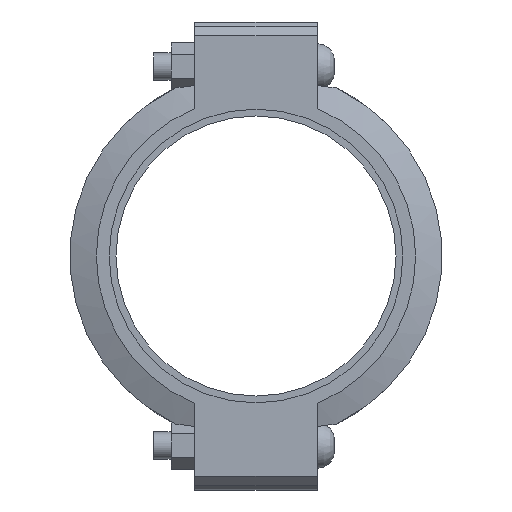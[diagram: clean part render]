
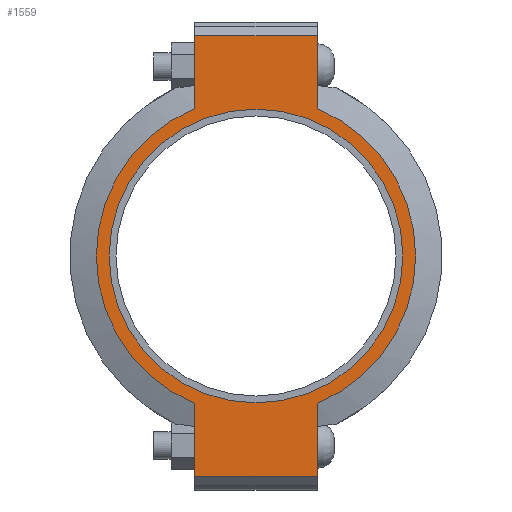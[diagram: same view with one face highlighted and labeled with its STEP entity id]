
A CAD part, left-side view. The second image highlights one B-rep face of the part: STEP entity #1559.
In plain terms, the highlighted planar face has unit normal (-1, 0, 0) as drawn and (0, 0, 1) by its records, which use the part's own axes.
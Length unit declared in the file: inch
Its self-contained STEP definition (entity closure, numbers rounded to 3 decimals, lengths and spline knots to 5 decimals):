
#186=LINE('',#2659,#273);
#197=LINE('',#2710,#284);
#203=LINE('',#2736,#290);
#205=LINE('',#2739,#292);
#206=LINE('',#2744,#293);
#207=LINE('',#2745,#294);
#273=VECTOR('',#2145,0.3937);
#284=VECTOR('',#2176,0.3937);
#290=VECTOR('',#2194,0.3937);
#292=VECTOR('',#2198,0.3937);
#293=VECTOR('',#2203,0.3937);
#294=VECTOR('',#2204,0.3937);
#352=FACE_BOUND('',#511,.T.);
#412=FACE_OUTER_BOUND('',#510,.T.);
#510=EDGE_LOOP('',(#1248,#1249,#1250,#1251,#1252,#1253,#1254,#1255));
#511=EDGE_LOOP('',(#1256));
#616=CIRCLE('',#1804,5.845);
#617=CIRCLE('',#1805,5.845);
#618=CIRCLE('',#1806,5.375);
#725=VERTEX_POINT('',#2656);
#726=VERTEX_POINT('',#2658);
#743=VERTEX_POINT('',#2705);
#744=VERTEX_POINT('',#2709);
#751=VERTEX_POINT('',#2731);
#752=VERTEX_POINT('',#2735);
#753=VERTEX_POINT('',#2741);
#754=VERTEX_POINT('',#2743);
#755=VERTEX_POINT('',#2747);
#895=EDGE_CURVE('',#726,#725,#186,.T.);
#916=EDGE_CURVE('',#744,#743,#197,.T.);
#927=EDGE_CURVE('',#752,#751,#203,.T.);
#929=EDGE_CURVE('',#752,#725,#205,.T.);
#930=EDGE_CURVE('',#751,#753,#616,.T.);
#931=EDGE_CURVE('',#753,#754,#206,.T.);
#932=EDGE_CURVE('',#744,#754,#207,.T.);
#933=EDGE_CURVE('',#743,#726,#617,.T.);
#934=EDGE_CURVE('',#755,#755,#618,.T.);
#1248=ORIENTED_EDGE('',*,*,#929,.F.);
#1249=ORIENTED_EDGE('',*,*,#927,.T.);
#1250=ORIENTED_EDGE('',*,*,#930,.T.);
#1251=ORIENTED_EDGE('',*,*,#931,.T.);
#1252=ORIENTED_EDGE('',*,*,#932,.F.);
#1253=ORIENTED_EDGE('',*,*,#916,.T.);
#1254=ORIENTED_EDGE('',*,*,#933,.T.);
#1255=ORIENTED_EDGE('',*,*,#895,.T.);
#1256=ORIENTED_EDGE('',*,*,#934,.T.);
#1411=PLANE('',#1803);
#1559=ADVANCED_FACE('',(#412,#352),#1411,.T.);
#1803=AXIS2_PLACEMENT_3D('',#2740,#2199,#2200);
#1804=AXIS2_PLACEMENT_3D('',#2742,#2201,#2202);
#1805=AXIS2_PLACEMENT_3D('',#2746,#2205,#2206);
#1806=AXIS2_PLACEMENT_3D('',#2748,#2207,#2208);
#2145=DIRECTION('',(-1.,0.,0.));
#2176=DIRECTION('',(-1.,0.,0.));
#2194=DIRECTION('',(1.,0.,0.));
#2198=DIRECTION('',(0.,1.,0.));
#2199=DIRECTION('center_axis',(0.,0.,1.));
#2200=DIRECTION('ref_axis',(1.,0.,0.));
#2201=DIRECTION('center_axis',(0.,0.,1.));
#2202=DIRECTION('ref_axis',(-1.,0.,0.));
#2203=DIRECTION('',(1.,0.,0.));
#2204=DIRECTION('',(0.,-1.,0.));
#2205=DIRECTION('center_axis',(0.,0.,1.));
#2206=DIRECTION('ref_axis',(-1.,0.,0.));
#2207=DIRECTION('center_axis',(0.,0.,-1.));
#2208=DIRECTION('ref_axis',(-1.,0.,0.));
#2656=CARTESIAN_POINT('',(-8.065,2.25,1.315));
#2658=CARTESIAN_POINT('',(-5.39458,2.25,1.315));
#2659=CARTESIAN_POINT('',(8.565,2.25,1.315));
#2705=CARTESIAN_POINT('',(5.39458,2.25,1.315));
#2709=CARTESIAN_POINT('',(8.065,2.25,1.315));
#2710=CARTESIAN_POINT('',(8.565,2.25,1.315));
#2731=CARTESIAN_POINT('',(-5.39458,-2.25,1.315));
#2735=CARTESIAN_POINT('',(-8.065,-2.25,1.315));
#2736=CARTESIAN_POINT('',(-8.565,-2.25,1.315));
#2739=CARTESIAN_POINT('',(-8.065,1.125,1.315));
#2740=CARTESIAN_POINT('Origin',(0.,0.,
1.315));
#2741=CARTESIAN_POINT('',(5.39458,-2.25,1.315));
#2742=CARTESIAN_POINT('Origin',(0.,0.,1.315));
#2743=CARTESIAN_POINT('',(8.065,-2.25,1.315));
#2744=CARTESIAN_POINT('',(-8.565,-2.25,1.315));
#2745=CARTESIAN_POINT('',(8.065,-1.125,1.315));
#2746=CARTESIAN_POINT('Origin',(0.,0.,1.315));
#2747=CARTESIAN_POINT('',(5.375,0.,1.315));
#2748=CARTESIAN_POINT('Origin',(0.,0.,1.315));
